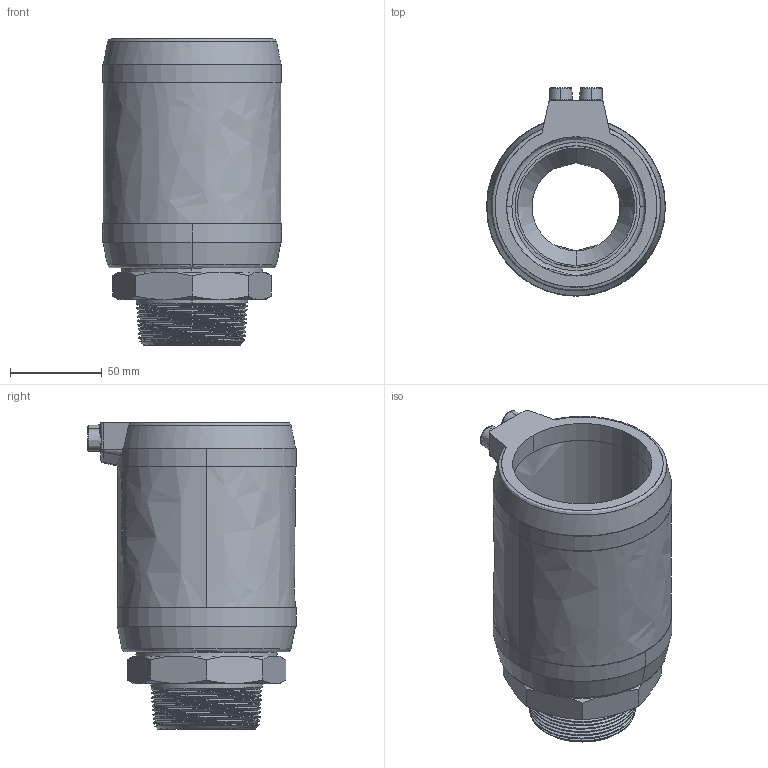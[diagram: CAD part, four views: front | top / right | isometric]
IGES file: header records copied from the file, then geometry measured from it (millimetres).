
Start section:  PTC IGES file: mun_d75_2_01.igs
Global section: file name: mun_d75_2_01.igs; native system: Pro/ENGINEER by Parametric Technology Corporation; preprocessor: 2011490; author: mtunjic; organization: Unknown; date: 20130823.145811; units: millimetre
Bounding box: 97.6 x 113.45 x 167.26 mm (x, y, z)
Surface area: 98809.1 mm2 (no closed solid volume)
Topology: 0 solids, 0 shells, 267 faces, 1352 edges, 1352 vertices
Faces by surface type: bspline 267
